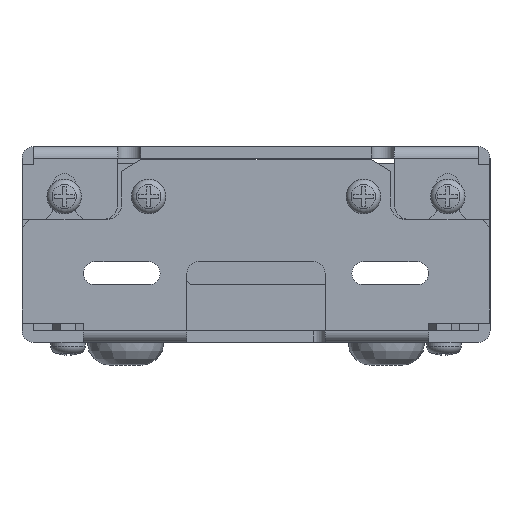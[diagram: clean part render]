
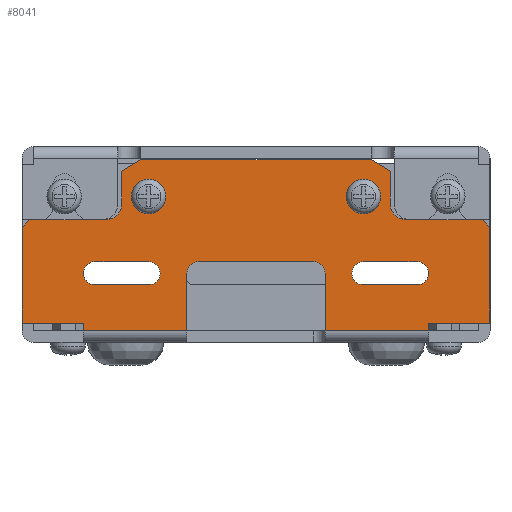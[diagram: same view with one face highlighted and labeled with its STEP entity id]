
A CAD part, left-side view. The second image highlights one B-rep face of the part: STEP entity #8041.
In plain terms, the highlighted planar face has unit normal (-1, 0, 0).
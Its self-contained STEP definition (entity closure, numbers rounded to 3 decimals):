
#166=FACE_BOUND('',#942,.T.);
#167=FACE_BOUND('',#943,.T.);
#168=FACE_BOUND('',#944,.T.);
#169=FACE_BOUND('',#945,.T.);
#260=PLANE('',#8547);
#530=FACE_OUTER_BOUND('',#941,.T.);
#941=EDGE_LOOP('',(#5586,#5587,#5588,#5589,#5590,#5591,#5592,#5593,#5594,
#5595,#5596,#5597,#5598,#5599,#5600,#5601,#5602,#5603,#5604,#5605,#5606,
#5607,#5608,#5609));
#942=EDGE_LOOP('',(#5610,#5611,#5612,#5613));
#943=EDGE_LOOP('',(#5614,#5615,#5616,#5617));
#944=EDGE_LOOP('',(#5618));
#945=EDGE_LOOP('',(#5619));
#1428=LINE('',#11593,#2336);
#1433=LINE('',#11608,#2341);
#1438=LINE('',#11617,#2346);
#1441=LINE('',#11623,#2349);
#1443=LINE('',#11628,#2351);
#1447=LINE('',#11635,#2355);
#1466=LINE('',#11689,#2374);
#1467=LINE('',#11691,#2375);
#1468=LINE('',#11693,#2376);
#1469=LINE('',#11695,#2377);
#1470=LINE('',#11697,#2378);
#1471=LINE('',#11699,#2379);
#1472=LINE('',#11703,#2380);
#1473=LINE('',#11707,#2381);
#1474=LINE('',#11709,#2382);
#1475=LINE('',#11711,#2383);
#1476=LINE('',#11713,#2384);
#1477=LINE('',#11715,#2385);
#1478=LINE('',#11716,#2386);
#1479=LINE('',#11717,#2387);
#1480=LINE('',#11720,#2388);
#1481=LINE('',#11724,#2389);
#1482=LINE('',#11728,#2390);
#1483=LINE('',#11732,#2391);
#2336=VECTOR('',#9254,10.);
#2341=VECTOR('',#9267,10.);
#2346=VECTOR('',#9274,10.);
#2349=VECTOR('',#9279,10.);
#2351=VECTOR('',#9283,10.);
#2355=VECTOR('',#9289,10.);
#2374=VECTOR('',#9328,10.);
#2375=VECTOR('',#9329,10.);
#2376=VECTOR('',#9330,10.);
#2377=VECTOR('',#9331,10.);
#2378=VECTOR('',#9332,10.);
#2379=VECTOR('',#9333,10.);
#2380=VECTOR('',#9336,10.);
#2381=VECTOR('',#9339,10.);
#2382=VECTOR('',#9340,10.);
#2383=VECTOR('',#9341,10.);
#2384=VECTOR('',#9342,10.);
#2385=VECTOR('',#9343,10.);
#2386=VECTOR('',#9344,10.);
#2387=VECTOR('',#9345,10.);
#2388=VECTOR('',#9346,10.);
#2389=VECTOR('',#9349,10.);
#2390=VECTOR('',#9352,10.);
#2391=VECTOR('',#9355,10.);
#3242=CIRCLE('',#8527,2.);
#3244=CIRCLE('',#8531,2.);
#3254=CIRCLE('',#8548,1.5);
#3255=CIRCLE('',#8549,1.5);
#3256=CIRCLE('',#8550,1.5);
#3257=CIRCLE('',#8551,1.5);
#3258=CIRCLE('',#8552,1.5);
#3259=CIRCLE('',#8553,1.5);
#3260=CIRCLE('',#8554,1.75);
#3261=CIRCLE('',#8555,1.75);
#3532=VERTEX_POINT('',#11583);
#3533=VERTEX_POINT('',#11584);
#3536=VERTEX_POINT('',#11592);
#3538=VERTEX_POINT('',#11598);
#3539=VERTEX_POINT('',#11599);
#3542=VERTEX_POINT('',#11607);
#3545=VERTEX_POINT('',#11615);
#3547=VERTEX_POINT('',#11621);
#3549=VERTEX_POINT('',#11627);
#3551=VERTEX_POINT('',#11633);
#3576=VERTEX_POINT('',#11688);
#3577=VERTEX_POINT('',#11690);
#3578=VERTEX_POINT('',#11692);
#3579=VERTEX_POINT('',#11694);
#3580=VERTEX_POINT('',#11696);
#3581=VERTEX_POINT('',#11698);
#3582=VERTEX_POINT('',#11700);
#3583=VERTEX_POINT('',#11702);
#3584=VERTEX_POINT('',#11704);
#3585=VERTEX_POINT('',#11706);
#3586=VERTEX_POINT('',#11708);
#3587=VERTEX_POINT('',#11710);
#3588=VERTEX_POINT('',#11712);
#3589=VERTEX_POINT('',#11714);
#3590=VERTEX_POINT('',#11718);
#3591=VERTEX_POINT('',#11719);
#3592=VERTEX_POINT('',#11721);
#3593=VERTEX_POINT('',#11723);
#3594=VERTEX_POINT('',#11726);
#3595=VERTEX_POINT('',#11727);
#3596=VERTEX_POINT('',#11729);
#3597=VERTEX_POINT('',#11731);
#3598=VERTEX_POINT('',#11734);
#3599=VERTEX_POINT('',#11736);
#4322=EDGE_CURVE('',#3532,#3533,#3242,.T.);
#4326=EDGE_CURVE('',#3536,#3533,#1428,.T.);
#4329=EDGE_CURVE('',#3538,#3539,#3244,.T.);
#4333=EDGE_CURVE('',#3542,#3539,#1433,.T.);
#4338=EDGE_CURVE('',#3538,#3545,#1438,.T.);
#4341=EDGE_CURVE('',#3532,#3547,#1441,.T.);
#4343=EDGE_CURVE('',#3549,#3542,#1443,.T.);
#4347=EDGE_CURVE('',#3547,#3551,#1447,.T.);
#4374=EDGE_CURVE('',#3576,#3545,#1466,.T.);
#4375=EDGE_CURVE('',#3577,#3576,#1467,.T.);
#4376=EDGE_CURVE('',#3577,#3578,#1468,.T.);
#4377=EDGE_CURVE('',#3578,#3579,#1469,.T.);
#4378=EDGE_CURVE('',#3580,#3579,#1470,.T.);
#4379=EDGE_CURVE('',#3580,#3581,#1471,.T.);
#4380=EDGE_CURVE('',#3582,#3581,#3254,.T.);
#4381=EDGE_CURVE('',#3582,#3583,#1472,.T.);
#4382=EDGE_CURVE('',#3584,#3583,#3255,.T.);
#4383=EDGE_CURVE('',#3584,#3585,#1473,.T.);
#4384=EDGE_CURVE('',#3586,#3585,#1474,.T.);
#4385=EDGE_CURVE('',#3586,#3587,#1475,.T.);
#4386=EDGE_CURVE('',#3587,#3588,#1476,.T.);
#4387=EDGE_CURVE('',#3588,#3589,#1477,.T.);
#4388=EDGE_CURVE('',#3536,#3589,#1478,.T.);
#4389=EDGE_CURVE('',#3549,#3551,#1479,.T.);
#4390=EDGE_CURVE('',#3590,#3591,#1480,.T.);
#4391=EDGE_CURVE('',#3591,#3592,#3256,.T.);
#4392=EDGE_CURVE('',#3592,#3593,#1481,.T.);
#4393=EDGE_CURVE('',#3593,#3590,#3257,.T.);
#4394=EDGE_CURVE('',#3594,#3595,#1482,.T.);
#4395=EDGE_CURVE('',#3595,#3596,#3258,.T.);
#4396=EDGE_CURVE('',#3596,#3597,#1483,.T.);
#4397=EDGE_CURVE('',#3597,#3594,#3259,.T.);
#4398=EDGE_CURVE('',#3598,#3598,#3260,.T.);
#4399=EDGE_CURVE('',#3599,#3599,#3261,.T.);
#5586=ORIENTED_EDGE('',*,*,#4338,.T.);
#5587=ORIENTED_EDGE('',*,*,#4374,.F.);
#5588=ORIENTED_EDGE('',*,*,#4375,.F.);
#5589=ORIENTED_EDGE('',*,*,#4376,.T.);
#5590=ORIENTED_EDGE('',*,*,#4377,.T.);
#5591=ORIENTED_EDGE('',*,*,#4378,.F.);
#5592=ORIENTED_EDGE('',*,*,#4379,.T.);
#5593=ORIENTED_EDGE('',*,*,#4380,.F.);
#5594=ORIENTED_EDGE('',*,*,#4381,.T.);
#5595=ORIENTED_EDGE('',*,*,#4382,.F.);
#5596=ORIENTED_EDGE('',*,*,#4383,.T.);
#5597=ORIENTED_EDGE('',*,*,#4384,.F.);
#5598=ORIENTED_EDGE('',*,*,#4385,.T.);
#5599=ORIENTED_EDGE('',*,*,#4386,.T.);
#5600=ORIENTED_EDGE('',*,*,#4387,.T.);
#5601=ORIENTED_EDGE('',*,*,#4388,.F.);
#5602=ORIENTED_EDGE('',*,*,#4326,.T.);
#5603=ORIENTED_EDGE('',*,*,#4322,.F.);
#5604=ORIENTED_EDGE('',*,*,#4341,.T.);
#5605=ORIENTED_EDGE('',*,*,#4347,.T.);
#5606=ORIENTED_EDGE('',*,*,#4389,.F.);
#5607=ORIENTED_EDGE('',*,*,#4343,.T.);
#5608=ORIENTED_EDGE('',*,*,#4333,.T.);
#5609=ORIENTED_EDGE('',*,*,#4329,.F.);
#5610=ORIENTED_EDGE('',*,*,#4390,.T.);
#5611=ORIENTED_EDGE('',*,*,#4391,.T.);
#5612=ORIENTED_EDGE('',*,*,#4392,.T.);
#5613=ORIENTED_EDGE('',*,*,#4393,.T.);
#5614=ORIENTED_EDGE('',*,*,#4394,.T.);
#5615=ORIENTED_EDGE('',*,*,#4395,.T.);
#5616=ORIENTED_EDGE('',*,*,#4396,.T.);
#5617=ORIENTED_EDGE('',*,*,#4397,.T.);
#5618=ORIENTED_EDGE('',*,*,#4398,.T.);
#5619=ORIENTED_EDGE('',*,*,#4399,.T.);
#8041=ADVANCED_FACE('',(#530,#166,#167,#168,#169),#260,.T.);
#8527=AXIS2_PLACEMENT_3D('',#11585,#9246,#9247);
#8531=AXIS2_PLACEMENT_3D('',#11600,#9259,#9260);
#8547=AXIS2_PLACEMENT_3D('',#11687,#9326,#9327);
#8548=AXIS2_PLACEMENT_3D('',#11701,#9334,#9335);
#8549=AXIS2_PLACEMENT_3D('',#11705,#9337,#9338);
#8550=AXIS2_PLACEMENT_3D('',#11722,#9347,#9348);
#8551=AXIS2_PLACEMENT_3D('',#11725,#9350,#9351);
#8552=AXIS2_PLACEMENT_3D('',#11730,#9353,#9354);
#8553=AXIS2_PLACEMENT_3D('',#11733,#9356,#9357);
#8554=AXIS2_PLACEMENT_3D('',#11735,#9358,#9359);
#8555=AXIS2_PLACEMENT_3D('',#11737,#9360,#9361);
#9246=DIRECTION('center_axis',(-1.,0.,0.));
#9247=DIRECTION('ref_axis',(0.,0.707,-0.707));
#9254=DIRECTION('',(0.,1.,0.));
#9259=DIRECTION('center_axis',(-1.,0.,0.));
#9260=DIRECTION('ref_axis',(0.,-0.707,-0.707));
#9267=DIRECTION('',(0.,0.,-1.));
#9274=DIRECTION('',(0.,1.,0.));
#9279=DIRECTION('',(0.,0.,1.));
#9283=DIRECTION('',(0.,0.857,-0.514));
#9289=DIRECTION('',(0.,0.857,0.514));
#9326=DIRECTION('center_axis',(-1.,0.,0.));
#9327=DIRECTION('ref_axis',(0.,-1.,0.));
#9328=DIRECTION('',(0.,-0.707,0.707));
#9329=DIRECTION('',(0.,0.,1.));
#9330=DIRECTION('',(0.,-1.,0.));
#9331=DIRECTION('',(0.,0.,-1.));
#9332=DIRECTION('',(0.,1.,0.));
#9333=DIRECTION('',(0.,0.,1.));
#9334=DIRECTION('center_axis',(-1.,0.,0.));
#9335=DIRECTION('ref_axis',(0.,0.707,0.707));
#9336=DIRECTION('',(0.,-1.,0.));
#9337=DIRECTION('center_axis',(-1.,0.,0.));
#9338=DIRECTION('ref_axis',(0.,-0.707,0.707));
#9339=DIRECTION('',(0.,0.,-1.));
#9340=DIRECTION('',(0.,1.,0.));
#9341=DIRECTION('',(0.,0.,1.));
#9342=DIRECTION('',(0.,-1.,0.));
#9343=DIRECTION('',(0.,0.,1.));
#9344=DIRECTION('',(0.,-0.707,-0.707));
#9345=DIRECTION('',(0.,-1.,0.));
#9346=DIRECTION('',(0.,-1.,0.));
#9347=DIRECTION('center_axis',(1.,0.,0.));
#9348=DIRECTION('ref_axis',(0.,0.,-1.));
#9349=DIRECTION('',(0.,1.,0.));
#9350=DIRECTION('center_axis',(1.,0.,0.));
#9351=DIRECTION('ref_axis',(0.,0.,1.));
#9352=DIRECTION('',(0.,-1.,0.));
#9353=DIRECTION('center_axis',(1.,0.,0.));
#9354=DIRECTION('ref_axis',(0.,0.,-1.));
#9355=DIRECTION('',(0.,1.,0.));
#9356=DIRECTION('center_axis',(1.,0.,0.));
#9357=DIRECTION('ref_axis',(0.,0.,1.));
#9358=DIRECTION('center_axis',(1.,0.,0.));
#9359=DIRECTION('ref_axis',(0.,-1.,0.));
#9360=DIRECTION('center_axis',(1.,0.,0.));
#9361=DIRECTION('ref_axis',(0.,-1.,0.));
#11583=CARTESIAN_POINT('',(-47.,-17.5,18.));
#11584=CARTESIAN_POINT('',(-47.,-19.5,16.));
#11585=CARTESIAN_POINT('Origin',(-47.,-19.5,18.));
#11592=CARTESIAN_POINT('',(-47.,-29.5,16.));
#11593=CARTESIAN_POINT('',(-47.,0.,16.));
#11598=CARTESIAN_POINT('',(-47.,19.5,16.));
#11599=CARTESIAN_POINT('',(-47.,17.5,18.));
#11600=CARTESIAN_POINT('Origin',(-47.,19.5,18.));
#11607=CARTESIAN_POINT('',(-47.,17.5,22.3));
#11608=CARTESIAN_POINT('',(-47.,17.5,11.9));
#11615=CARTESIAN_POINT('',(-47.,29.5,16.));
#11617=CARTESIAN_POINT('',(-47.,24.,16.));
#11621=CARTESIAN_POINT('',(-47.,-17.5,22.3));
#11623=CARTESIAN_POINT('',(-47.,-17.5,8.));
#11627=CARTESIAN_POINT('',(-47.,15.,23.8));
#11628=CARTESIAN_POINT('',(-47.,25.949,17.231));
#11633=CARTESIAN_POINT('',(-47.,-15.,23.8));
#11635=CARTESIAN_POINT('',(-47.,-4.772,29.937));
#11687=CARTESIAN_POINT('Origin',(-47.,30.5,0.));
#11688=CARTESIAN_POINT('',(-47.,30.5,15.));
#11689=CARTESIAN_POINT('',(-47.,34.,11.5));
#11690=CARTESIAN_POINT('',(-47.,30.5,2.5));
#11691=CARTESIAN_POINT('',(-47.,30.5,0.));
#11692=CARTESIAN_POINT('',(-47.,22.5,2.5));
#11693=CARTESIAN_POINT('',(-47.,30.5,2.5));
#11694=CARTESIAN_POINT('',(-47.,22.5,1.5));
#11695=CARTESIAN_POINT('',(-47.,22.5,0.625));
#11696=CARTESIAN_POINT('',(-47.,9.,1.5));
#11697=CARTESIAN_POINT('',(-47.,15.25,1.5));
#11698=CARTESIAN_POINT('',(-47.,9.,9.));
#11699=CARTESIAN_POINT('',(-47.,9.,0.007));
#11700=CARTESIAN_POINT('',(-47.,7.5,10.5));
#11701=CARTESIAN_POINT('Origin',(-47.,7.5,9.));
#11702=CARTESIAN_POINT('',(-47.,-7.5,10.5));
#11703=CARTESIAN_POINT('',(-47.,19.75,10.5));
#11704=CARTESIAN_POINT('',(-47.,-9.,9.));
#11705=CARTESIAN_POINT('Origin',(-47.,-7.5,9.));
#11706=CARTESIAN_POINT('',(-47.,-9.,1.5));
#11707=CARTESIAN_POINT('',(-47.,-9.,5.25));
#11708=CARTESIAN_POINT('',(-47.,-22.5,1.5));
#11709=CARTESIAN_POINT('',(-47.,15.25,1.5));
#11710=CARTESIAN_POINT('',(-47.,-22.5,2.5));
#11711=CARTESIAN_POINT('',(-47.,-22.5,0.625));
#11712=CARTESIAN_POINT('',(-47.,-30.5,2.5));
#11713=CARTESIAN_POINT('',(-47.,0.,2.5));
#11714=CARTESIAN_POINT('',(-47.,-30.5,15.));
#11715=CARTESIAN_POINT('',(-47.,-30.5,0.));
#11716=CARTESIAN_POINT('',(-47.,-18.75,26.75));
#11717=CARTESIAN_POINT('',(-47.,-30.5,23.8));
#11718=CARTESIAN_POINT('',(-47.,-14.,10.5));
#11719=CARTESIAN_POINT('',(-47.,-21.,10.5));
#11720=CARTESIAN_POINT('',(-47.,8.25,10.5));
#11721=CARTESIAN_POINT('',(-47.,-21.,7.5));
#11722=CARTESIAN_POINT('Origin',(-47.,-21.,9.));
#11723=CARTESIAN_POINT('',(-47.,-14.,7.5));
#11724=CARTESIAN_POINT('',(-47.,4.75,7.5));
#11725=CARTESIAN_POINT('Origin',(-47.,-14.,9.));
#11726=CARTESIAN_POINT('',(-47.,21.,10.5));
#11727=CARTESIAN_POINT('',(-47.,14.,10.5));
#11728=CARTESIAN_POINT('',(-47.,25.75,10.5));
#11729=CARTESIAN_POINT('',(-47.,14.,7.5));
#11730=CARTESIAN_POINT('Origin',(-47.,14.,9.));
#11731=CARTESIAN_POINT('',(-47.,21.,7.5));
#11732=CARTESIAN_POINT('',(-47.,22.25,7.5));
#11733=CARTESIAN_POINT('Origin',(-47.,21.,9.));
#11734=CARTESIAN_POINT('',(-47.,-12.25,19.));
#11735=CARTESIAN_POINT('Origin',(-47.,-14.,19.));
#11736=CARTESIAN_POINT('',(-47.,15.75,19.));
#11737=CARTESIAN_POINT('Origin',(-47.,14.,19.));
